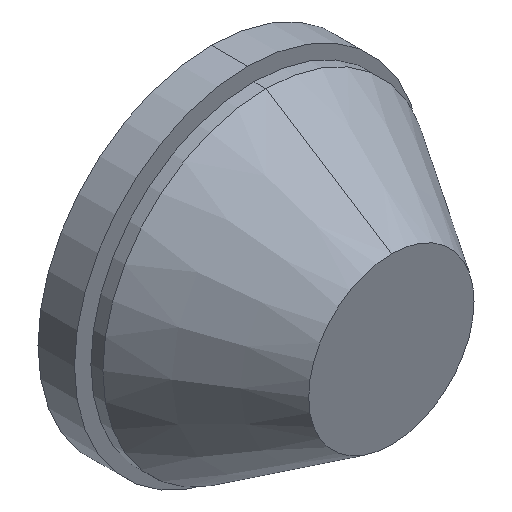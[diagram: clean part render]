
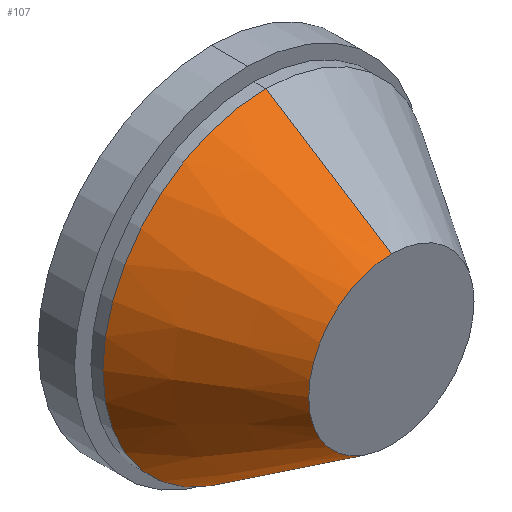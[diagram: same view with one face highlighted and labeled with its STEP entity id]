
A CAD part, isometric view. The second image highlights one B-rep face of the part: STEP entity #107.
In plain terms, the highlighted conical face has half-angle 32.597 degrees and reference radius 13.821 mm.
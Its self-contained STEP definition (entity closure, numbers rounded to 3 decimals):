
#7 = EDGE_CURVE ( 'NONE', #348, #367, #275, .T. ) ;
#8 = EDGE_CURVE ( 'NONE', #322, #338, #377, .T. ) ;
#9 = EDGE_CURVE ( 'NONE', #322, #348, #265, .T. ) ;
#10 = EDGE_CURVE ( 'NONE', #338, #367, #332, .T. ) ;
#19 = AXIS2_PLACEMENT_3D ( 'NONE', #41, #44, #40 ) ;
#20 = AXIS2_PLACEMENT_3D ( 'NONE', #45, #46, #47 ) ;
#32 = DIRECTION ( 'NONE',  ( 0., 0.842, -0.539 ) ) ;
#33 = CARTESIAN_POINT ( 'NONE',  ( 0., 0., -13.821 ) ) ;
#38 = CARTESIAN_POINT ( 'NONE',  ( 0., 0., 13.821 ) ) ;
#39 = DIRECTION ( 'NONE',  ( 0., 0.842, 0.539 ) ) ;
#40 = DIRECTION ( 'NONE',  ( 0., 0., -1. ) ) ;
#41 = CARTESIAN_POINT ( 'NONE',  ( 0., 0., 0. ) ) ;
#44 = DIRECTION ( 'NONE',  ( 0., -1., 0. ) ) ;
#45 = CARTESIAN_POINT ( 'NONE',  ( 0., 21., 0. ) ) ;
#46 = DIRECTION ( 'NONE',  ( 0., -1., 0. ) ) ;
#47 = DIRECTION ( 'NONE',  ( 0., 0., -1. ) ) ;
#107 = ADVANCED_FACE ( 'NONE', ( #286 ), #276, .T. ) ;
#124 = CARTESIAN_POINT ( 'NONE',  ( 0., 21., 27.25 ) ) ;
#141 = CARTESIAN_POINT ( 'NONE',  ( 0., 0., 13.821 ) ) ;
#146 = CARTESIAN_POINT ( 'NONE',  ( 0., 21., -27.25 ) ) ;
#162 = CARTESIAN_POINT ( 'NONE',  ( 0., 0., -13.821 ) ) ;
#176 = AXIS2_PLACEMENT_3D ( 'NONE', #231, #246, #249 ) ;
#231 = CARTESIAN_POINT ( 'NONE',  ( 0., 0., 0. ) ) ;
#246 = DIRECTION ( 'NONE',  ( 0., 1., 0. ) ) ;
#249 = DIRECTION ( 'NONE',  ( 0., 0., 1. ) ) ;
#265 = CIRCLE ( 'NONE', #19, 13.821 ) ;
#275 = LINE ( 'NONE', #33, #306 ) ;
#276 = CONICAL_SURFACE ( 'NONE', #176, 13.821, 0.569 ) ;
#282 = ORIENTED_EDGE ( 'NONE', *, *, #10, .T. ) ;
#286 = FACE_OUTER_BOUND ( 'NONE', #356, .T. ) ;
#303 = VECTOR ( 'NONE', #39, 1000. ) ;
#306 = VECTOR ( 'NONE', #32, 1000. ) ;
#322 = VERTEX_POINT ( 'NONE', #141 ) ;
#326 = ORIENTED_EDGE ( 'NONE', *, *, #9, .F. ) ;
#332 = CIRCLE ( 'NONE', #20, 27.25 ) ;
#338 = VERTEX_POINT ( 'NONE', #124 ) ;
#346 = ORIENTED_EDGE ( 'NONE', *, *, #7, .F. ) ;
#348 = VERTEX_POINT ( 'NONE', #162 ) ;
#356 = EDGE_LOOP ( 'NONE', ( #346, #326, #376, #282 ) ) ;
#367 = VERTEX_POINT ( 'NONE', #146 ) ;
#376 = ORIENTED_EDGE ( 'NONE', *, *, #8, .T. ) ;
#377 = LINE ( 'NONE', #38, #303 ) ;
